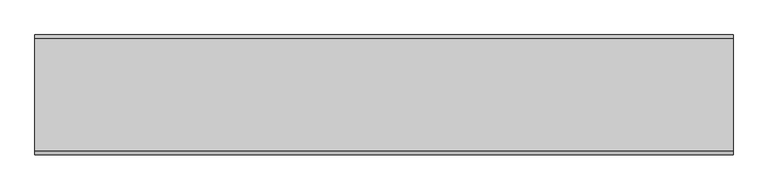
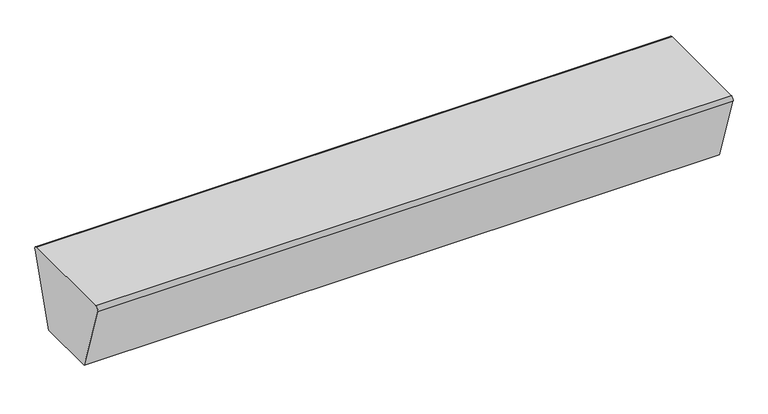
"""IFC4 building model written with IfcOpenShell, lengths in millimetres: furniture geometry, Banco de hormigón : Banco de hormigón 3.8m."""

from ifc_helpers import new_model, si_unit, point, frame, frame_2d, origin, place, context, project, spatial, polyline, circle_curve, trimmed, segment, composite_curve, outline, extrude, source, transform, mapped, element, save


def furniture_18cd3a3b(model_context):
    return source(origin(), model_context, "Body", "SweptSolid", [
        extrude(outline(composite_curve([segment(polyline([(-141.2251482, 0.0), (-508.7748518, 0.0), (-650.0, 423.6754447)]), True, "CONTINUOUS"), segment(trimmed(circle_curve(frame_2d((-631.026334, 430.0)), 20.0), [point((-650.0, 423.6754447))], [point((-631.026334, 450.0))], False, "CARTESIAN"), True, "CONTINUOUS"), segment(polyline([(-631.026334, 450.0), (-18.973666, 450.0)]), True, "CONTINUOUS"), segment(trimmed(circle_curve(frame_2d((-18.973666, 430.0)), 20.0), [point((-18.973666, 450.0))], [point((0.0, 423.6754447))], False, "CARTESIAN"), True, "CONTINUOUS"), segment(polyline([(0.0, 423.6754447), (-141.2251482, 0.0)]), True, "CONTINUOUS")], self_intersect=False)), frame((-1855.2996736, 0.0, 0.0), z_axis=(1.0, 0.0, 0.0), x_axis=(0.0, 1.0, 0.0)), (0.0, 0.0, 1.0), 3800.0),
    ])


if __name__ == "__main__":
    model = new_model("IFC4")
    model_context = context("Model", 3, world=origin())
    ifc_project = project(units=[si_unit("LENGTHUNIT", "METRE", prefix="MILLI")], contexts=[model_context])
    site = spatial("IfcSite", under=ifc_project)
    building = spatial("IfcBuilding", under=site)
    placement = place(None, origin())
    furniture_shape = furniture_18cd3a3b(model_context)
    element("IfcFurniture", 1, ObjectType="Banco de hormigón : Banco de hormigón 3.8m", at=placement, inside=building, context=model_context, shape_type="MappedRepresentation", body=[
        mapped(furniture_shape, transform((0.0, 0.0, 0.0), x_axis=(1.0, 0.0, 0.0), y_axis=(0.0, 1.0, 0.0), z_axis=(0.0, 0.0, 1.0))),
    ])
    save(model, "model.ifc")
